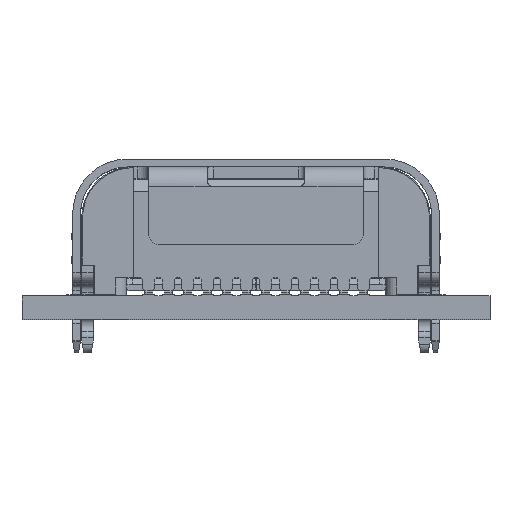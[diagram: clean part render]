
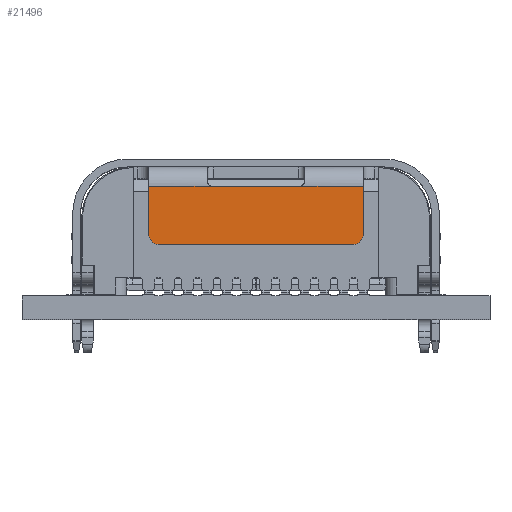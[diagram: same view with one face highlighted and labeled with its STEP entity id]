
A CAD part, top view. The second image highlights one B-rep face of the part: STEP entity #21496.
In plain terms, the highlighted planar face has unit normal (0, 0, 1) as drawn and (0, 1, 0) by its records, which use the part's own axes.
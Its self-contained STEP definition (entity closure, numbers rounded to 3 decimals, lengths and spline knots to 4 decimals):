
#14917 = CARTESIAN_POINT ( 'NONE',  ( -12.9748, 8.6952, 2.8803 ) ) ;
#14919 = DIRECTION ( 'NONE',  ( 0., 0., 1. ) ) ;
#14920 = VECTOR ( 'NONE', #14919, 1000. ) ;
#14922 = CARTESIAN_POINT ( 'NONE',  ( -12.9748, 8.6952, 4.5803 ) ) ;
#14924 = LINE ( 'NONE', #14922, #14920 ) ;
#15142 = DIRECTION ( 'NONE',  ( 0., 0., 1. ) ) ;
#15144 = DIRECTION ( 'NONE',  ( 0., 1., 0. ) ) ;
#15145 = CARTESIAN_POINT ( 'NONE',  ( -7.7748, 8.6952, 2.8803 ) ) ;
#15147 = AXIS2_PLACEMENT_3D ( 'NONE', #15145, #15144, #15142 ) ;
#15149 = CIRCLE ( 'NONE', #15147, 0.3 ) ;
#15154 = CARTESIAN_POINT ( 'NONE',  ( -7.7748, 8.6952, 2.5803 ) ) ;
#15190 = DIRECTION ( 'NONE',  ( 0., 0., 1. ) ) ;
#15192 = DIRECTION ( 'NONE',  ( 0., 1., 0. ) ) ;
#15194 = CARTESIAN_POINT ( 'NONE',  ( -12.6748, 8.6952, 2.8803 ) ) ;
#15196 = AXIS2_PLACEMENT_3D ( 'NONE', #15194, #15192, #15190 ) ;
#15208 = CIRCLE ( 'NONE', #15196, 0.3 ) ;
#15266 = CARTESIAN_POINT ( 'NONE',  ( -7.4748, 8.6952, 2.8803 ) ) ;
#15269 = CARTESIAN_POINT ( 'NONE',  ( -7.4748, 8.6952, 4.0803 ) ) ;
#15271 = DIRECTION ( 'NONE',  ( 0., 0., -1. ) ) ;
#15273 = VECTOR ( 'NONE', #15271, 1000. ) ;
#15275 = CARTESIAN_POINT ( 'NONE',  ( -7.4748, 8.6952, 4.5803 ) ) ;
#15276 = LINE ( 'NONE', #15275, #15273 ) ;
#15297 = VERTEX_POINT ( 'NONE', #71372 ) ;
#15374 = DIRECTION ( 'NONE',  ( 1., 0., 0. ) ) ;
#15376 = VECTOR ( 'NONE', #15374, 1000. ) ;
#15377 = CARTESIAN_POINT ( 'NONE',  ( -12.6748, 8.6952, 4.0803 ) ) ;
#15379 = LINE ( 'NONE', #15377, #15376 ) ;
#15384 = CARTESIAN_POINT ( 'NONE',  ( -9.1248, 8.6952, 4.0803 ) ) ;
#15387 = DIRECTION ( 'NONE',  ( -1., 0., 0. ) ) ;
#15388 = VECTOR ( 'NONE', #15387, 1000. ) ;
#15390 = CARTESIAN_POINT ( 'NONE',  ( -11.4748, 8.6952, 4.0803 ) ) ;
#15392 = LINE ( 'NONE', #15390, #15388 ) ;
#15396 = DIRECTION ( 'NONE',  ( 0., 0., 1. ) ) ;
#15397 = DIRECTION ( 'NONE',  ( 0., 1., 0. ) ) ;
#15398 = CARTESIAN_POINT ( 'NONE',  ( -12.6748, 8.6952, 2.8803 ) ) ;
#15400 = AXIS2_PLACEMENT_3D ( 'NONE', #15398, #15397, #15396 ) ;
#15401 = EDGE_CURVE ( 'NONE', #15428, #15297, #71520, .T. ) ;
#15402 = PLANE ( 'NONE',  #15400 ) ;
#15412 = FACE_OUTER_BOUND ( 'NONE', #21497, .T. ) ;
#15428 = VERTEX_POINT ( 'NONE', #71548 ) ;
#15501 = DIRECTION ( 'NONE',  ( -1., 0., 0. ) ) ;
#15502 = VECTOR ( 'NONE', #15501, 1000. ) ;
#15504 = CARTESIAN_POINT ( 'NONE',  ( -12.6748, 8.6952, 2.5803 ) ) ;
#15506 = LINE ( 'NONE', #15504, #15502 ) ;
#15509 = CARTESIAN_POINT ( 'NONE',  ( -12.6748, 8.6952, 2.5803 ) ) ;
#21307 = EDGE_CURVE ( 'NONE', #21309, #15428, #14924, .T. ) ;
#21309 = VERTEX_POINT ( 'NONE', #14917 ) ;
#21388 = EDGE_CURVE ( 'NONE', #21516, #21309, #15208, .T. ) ;
#21406 = VERTEX_POINT ( 'NONE', #15154 ) ;
#21411 = EDGE_CURVE ( 'NONE', #21426, #21406, #15149, .T. ) ;
#21424 = EDGE_CURVE ( 'NONE', #21425, #21426, #15276, .T. ) ;
#21425 = VERTEX_POINT ( 'NONE', #15269 ) ;
#21426 = VERTEX_POINT ( 'NONE', #15266 ) ;
#21473 = ORIENTED_EDGE ( 'NONE', *, *, #21388, .T. ) ;
#21496 = ADVANCED_FACE ( 'NONE', ( #15412 ), #15402, .T. ) ;
#21497 = EDGE_LOOP ( 'NONE', ( #21498, #21499, #21501, #21507, #21510, #21511, #21512, #21473 ) ) ;
#21498 = ORIENTED_EDGE ( 'NONE', *, *, #21307, .T. ) ;
#21499 = ORIENTED_EDGE ( 'NONE', *, *, #15401, .T. ) ;
#21501 = ORIENTED_EDGE ( 'NONE', *, *, #21502, .F. ) ;
#21502 = EDGE_CURVE ( 'NONE', #21505, #15297, #15392, .T. ) ;
#21505 = VERTEX_POINT ( 'NONE', #15384 ) ;
#21507 = ORIENTED_EDGE ( 'NONE', *, *, #21508, .T. ) ;
#21508 = EDGE_CURVE ( 'NONE', #21505, #21425, #15379, .T. ) ;
#21510 = ORIENTED_EDGE ( 'NONE', *, *, #21424, .T. ) ;
#21511 = ORIENTED_EDGE ( 'NONE', *, *, #21411, .T. ) ;
#21512 = ORIENTED_EDGE ( 'NONE', *, *, #21518, .T. ) ;
#21516 = VERTEX_POINT ( 'NONE', #15509 ) ;
#21518 = EDGE_CURVE ( 'NONE', #21406, #21516, #15506, .T. ) ;
#71372 = CARTESIAN_POINT ( 'NONE',  ( -11.3248, 8.6952, 4.0803 ) ) ;
#71517 = DIRECTION ( 'NONE',  ( 1., 0., 0. ) ) ;
#71518 = VECTOR ( 'NONE', #71517, 1000. ) ;
#71519 = CARTESIAN_POINT ( 'NONE',  ( -12.6748, 8.6952, 4.0803 ) ) ;
#71520 = LINE ( 'NONE', #71519, #71518 ) ;
#71548 = CARTESIAN_POINT ( 'NONE',  ( -12.9748, 8.6952, 4.0803 ) ) ;
